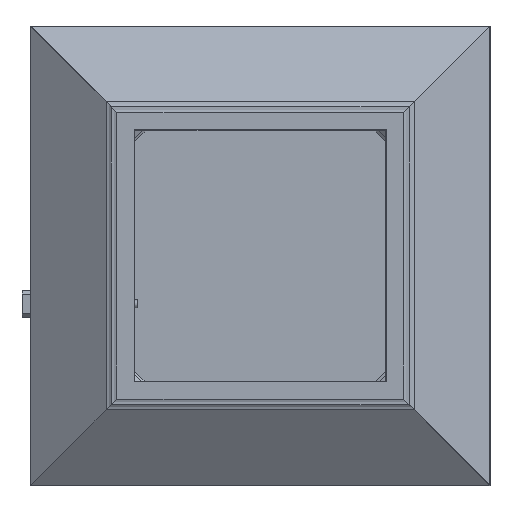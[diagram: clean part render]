
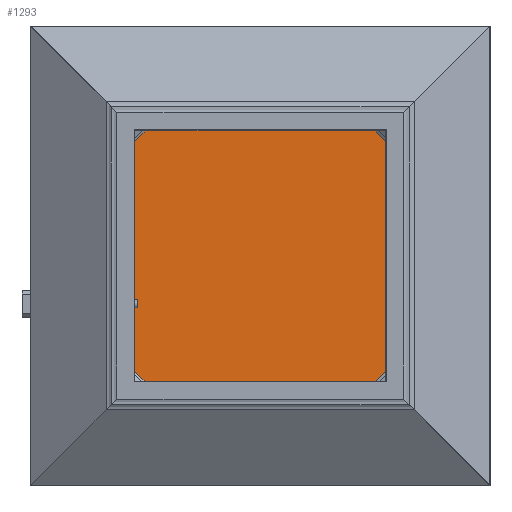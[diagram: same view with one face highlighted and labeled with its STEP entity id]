
A CAD part, top view. The second image highlights one B-rep face of the part: STEP entity #1293.
In plain terms, the highlighted planar face has unit normal (0, 0, 1) by its records, which use the part's own axes.
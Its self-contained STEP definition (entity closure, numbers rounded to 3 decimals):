
#37=CIRCLE('',#1385,5.);
#61=FACE_BOUND('',#202,.T.);
#106=FACE_OUTER_BOUND('',#201,.T.);
#201=EDGE_LOOP('',(#954,#955,#956,#957,#958,#959,#960,#961));
#202=EDGE_LOOP('',(#962));
#314=LINE('',#2008,#465);
#315=LINE('',#2010,#466);
#316=LINE('',#2012,#467);
#317=LINE('',#2014,#468);
#318=LINE('',#2016,#469);
#319=LINE('',#2018,#470);
#320=LINE('',#2020,#471);
#321=LINE('',#2021,#472);
#465=VECTOR('',#1598,10.);
#466=VECTOR('',#1599,10.);
#467=VECTOR('',#1600,10.);
#468=VECTOR('',#1601,10.);
#469=VECTOR('',#1602,10.);
#470=VECTOR('',#1603,10.);
#471=VECTOR('',#1604,10.);
#472=VECTOR('',#1605,10.);
#604=VERTEX_POINT('',#1964);
#622=VERTEX_POINT('',#2006);
#623=VERTEX_POINT('',#2007);
#624=VERTEX_POINT('',#2009);
#625=VERTEX_POINT('',#2011);
#626=VERTEX_POINT('',#2013);
#627=VERTEX_POINT('',#2015);
#628=VERTEX_POINT('',#2017);
#629=VERTEX_POINT('',#2019);
#728=EDGE_CURVE('',#604,#604,#37,.T.);
#746=EDGE_CURVE('',#622,#623,#314,.F.);
#747=EDGE_CURVE('',#624,#623,#315,.F.);
#748=EDGE_CURVE('',#625,#624,#316,.F.);
#749=EDGE_CURVE('',#626,#625,#317,.F.);
#750=EDGE_CURVE('',#626,#627,#318,.F.);
#751=EDGE_CURVE('',#628,#627,#319,.F.);
#752=EDGE_CURVE('',#629,#628,#320,.T.);
#753=EDGE_CURVE('',#622,#629,#321,.F.);
#954=ORIENTED_EDGE('',*,*,#746,.T.);
#955=ORIENTED_EDGE('',*,*,#747,.F.);
#956=ORIENTED_EDGE('',*,*,#748,.F.);
#957=ORIENTED_EDGE('',*,*,#749,.F.);
#958=ORIENTED_EDGE('',*,*,#750,.T.);
#959=ORIENTED_EDGE('',*,*,#751,.F.);
#960=ORIENTED_EDGE('',*,*,#752,.F.);
#961=ORIENTED_EDGE('',*,*,#753,.F.);
#962=ORIENTED_EDGE('',*,*,#728,.T.);
#1212=PLANE('',#1400);
#1293=ADVANCED_FACE('',(#106,#61),#1212,.T.);
#1385=AXIS2_PLACEMENT_3D('',#1965,#1558,#1559);
#1400=AXIS2_PLACEMENT_3D('',#2005,#1596,#1597);
#1558=DIRECTION('center_axis',(0.,0.,-1.));
#1559=DIRECTION('ref_axis',(1.,0.,0.));
#1596=DIRECTION('center_axis',(0.,0.,1.));
#1597=DIRECTION('ref_axis',(1.,0.,0.));
#1598=DIRECTION('',(-0.707,0.707,0.));
#1599=DIRECTION('',(1.,0.,0.));
#1600=DIRECTION('',(0.707,0.707,0.));
#1601=DIRECTION('',(0.,1.,0.));
#1602=DIRECTION('',(0.707,-0.707,0.));
#1603=DIRECTION('',(-1.,0.,0.));
#1604=DIRECTION('',(0.707,0.707,0.));
#1605=DIRECTION('',(0.,-1.,0.));
#1964=CARTESIAN_POINT('',(-342.,0.,38.));
#1965=CARTESIAN_POINT('Origin',(-337.,0.,38.));
#2005=CARTESIAN_POINT('Origin',(0.,0.,38.));
#2006=CARTESIAN_POINT('',(-370.84,-233.376,38.));
#2007=CARTESIAN_POINT('',(-233.376,-370.84,38.));
#2008=CARTESIAN_POINT('',(-302.108,-302.108,38.));
#2009=CARTESIAN_POINT('',(233.376,-370.84,38.));
#2010=CARTESIAN_POINT('',(288.75,-370.84,38.));
#2011=CARTESIAN_POINT('',(370.84,-233.376,38.));
#2012=CARTESIAN_POINT('',(302.108,-302.108,38.));
#2013=CARTESIAN_POINT('',(370.84,233.376,38.));
#2014=CARTESIAN_POINT('',(370.84,288.75,38.));
#2015=CARTESIAN_POINT('',(233.376,370.84,38.));
#2016=CARTESIAN_POINT('',(302.108,302.108,38.));
#2017=CARTESIAN_POINT('',(-233.376,370.84,38.));
#2018=CARTESIAN_POINT('',(-288.75,370.84,38.));
#2019=CARTESIAN_POINT('',(-370.84,233.376,38.));
#2020=CARTESIAN_POINT('',(-302.108,302.108,38.));
#2021=CARTESIAN_POINT('',(-370.84,-288.75,38.));
